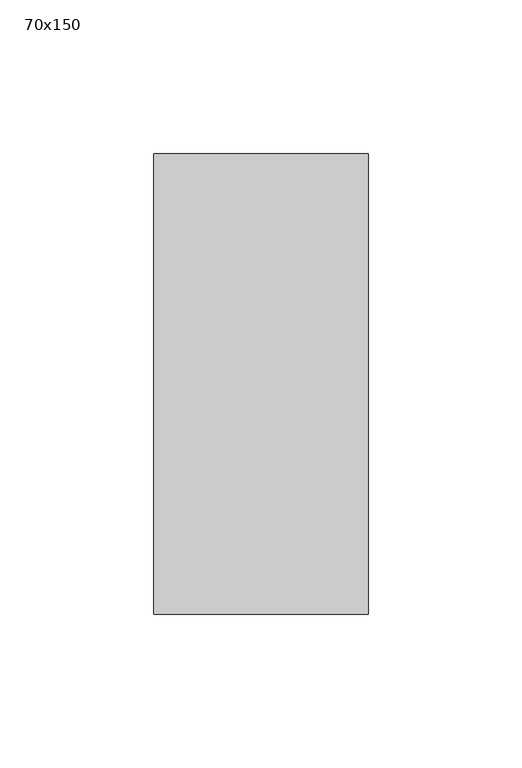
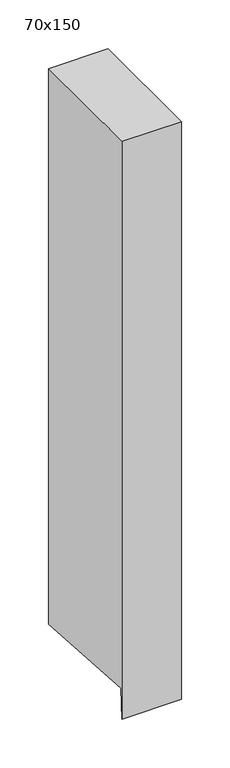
"""IFC4 building model written with IfcOpenShell, lengths in millimetres: member geometry, 長方形のマリオン : 70x150."""

import ifcopenshell
import ifcopenshell.guid

model = None  # the IFC model being written
_history = None  # IfcOwnerHistory: only IFC2X3 demands one
_inside = {}  # id of a spatial element -> (the spatial element, [elements in it])
_under = {}  # id of a project, library or spatial element -> (it, [spatial elements below it])
_declared = {}  # id of a project -> (the project, [libraries it declares])
_typed = {}  # id of a type object -> (the type object, [elements of that type])
_made_of = {}  # id of a material, layer set ... -> (it, [elements and type objects made of it])


def new_model(schema):
    """Start an empty IFC model of exactly this schema.

    Asked for "IFC4X3", IfcOpenShell would pick the latest addendum, in which some entities
    have other attributes; the version numbers below select the first issue.
    IFC2X3 requires an IfcOwnerHistory on every rooted entity: one is made here for all.
    """
    global model, _history
    if schema == "IFC4X3":
        model = ifcopenshell.file(schema_version=(4, 3, 0, 0))
    else:
        model = ifcopenshell.file(schema=schema)
    _inside.clear()
    _under.clear()
    _declared.clear()
    _typed.clear()
    _made_of.clear()
    _history = None
    if model.schema == "IFC2X3":
        org = make("IfcOrganization", Name="unknown")
        user = make(
            "IfcPersonAndOrganization",
            ThePerson=make("IfcPerson", FamilyName="unknown"),
            TheOrganization=org,
        )
        app = make(
            "IfcApplication",
            ApplicationDeveloper=org,
            Version="unknown",
            ApplicationFullName="unknown",
            ApplicationIdentifier="unknown",
        )
        _history = make(
            "IfcOwnerHistory",
            OwningUser=user,
            OwningApplication=app,
            ChangeAction="ADDED",
            CreationDate=0,
        )
    return model


def make(cls, **values):
    """One entity of the class cls with the attributes given. An attribute that is None is left unset."""
    return model.create_entity(
        cls, **{name: value for name, value in values.items() if value is not None}
    )


def rooted(cls, **values):
    """An entity with a GlobalId (a new one), such as an element, a storey or a relation."""
    return make(cls, GlobalId=ifcopenshell.guid.new(), OwnerHistory=_history, **values)


def si_unit(unit_type, name, prefix=None):
    """IfcSIUnit, for example si_unit("LENGTHUNIT", "METRE", prefix="MILLI")."""
    return make("IfcSIUnit", UnitType=unit_type, Prefix=prefix, Name=name)


def assignment(units):
    """IfcUnitAssignment: the units of a project."""
    return None if units is None else make("IfcUnitAssignment", Units=units)


def point(xyz):
    """IfcCartesianPoint."""
    return None if xyz is None else make("IfcCartesianPoint", Coordinates=xyz)


def direction(xyz):
    """IfcDirection."""
    return None if xyz is None else make("IfcDirection", DirectionRatios=xyz)


def frame(location, z_axis=None, x_axis=None):
    """IfcAxis2Placement3D, a coordinate frame: its origin and axes. An axis left out is left unset."""
    return make(
        "IfcAxis2Placement3D",
        Location=point(location),
        Axis=direction(z_axis),
        RefDirection=direction(x_axis),
    )


def origin():
    """The frame at (0, 0, 0) with its axes left unset."""
    return frame((0.0, 0.0, 0.0))


def place(relative_to, where):
    """IfcLocalPlacement: puts the frame where relative to a parent placement (None: the world)."""
    return make(
        "IfcLocalPlacement", PlacementRelTo=relative_to, RelativePlacement=where
    )


def context(
    kind, dimensions, precision=None, world=None, true_north=None, identifier=None
):
    """IfcGeometricRepresentationContext, for example the 3D "Model" context."""
    return make(
        "IfcGeometricRepresentationContext",
        ContextIdentifier=identifier,
        ContextType=kind,
        CoordinateSpaceDimension=dimensions,
        Precision=precision,
        WorldCoordinateSystem=world,
        TrueNorth=true_north,
    )


def project(units=None, contexts=None):
    """IfcProject with its units and contexts."""
    return rooted(
        "IfcProject",
        Name="project",
        RepresentationContexts=contexts,
        UnitsInContext=assignment(units),
    )


def spatial(cls, under=None, at=None, **own):
    """A site, building, storey or space (cls), placed at a placement, below another one or the project."""
    s = rooted(cls, ObjectPlacement=at, **own)
    if under is not None:
        _under.setdefault(under.id(), (under, []))[1].append(s)
    return s


def polyline(points):
    """IfcPolyline through the points."""
    return make("IfcPolyline", Points=[point(p) for p in points])


def outline(outer, holes=None, kind="AREA"):
    """IfcArbitraryClosedProfileDef: a profile drawn as a closed curve; with holes, ...WithVoids."""
    if holes is None:
        return make("IfcArbitraryClosedProfileDef", ProfileType=kind, OuterCurve=outer)
    return make(
        "IfcArbitraryProfileDefWithVoids",
        ProfileType=kind,
        OuterCurve=outer,
        InnerCurves=holes,
    )


def extrude(swept, where, along, depth):
    """IfcExtrudedAreaSolid: the profile swept, set in the frame where, extruded along a direction by depth."""
    return make(
        "IfcExtrudedAreaSolid",
        SweptArea=swept,
        Position=where,
        ExtrudedDirection=direction(along),
        Depth=depth,
    )


def shape(context_of_items, identifier, shape_type, items):
    """IfcShapeRepresentation: the items that make up one representation, for example the "Body"."""
    return make(
        "IfcShapeRepresentation",
        ContextOfItems=context_of_items,
        RepresentationIdentifier=identifier,
        RepresentationType=shape_type,
        Items=items,
    )


def source(mapping_origin, context_of_items, identifier, shape_type, items):
    """IfcRepresentationMap: a shape defined once, which mapped items show again and again."""
    return make(
        "IfcRepresentationMap",
        MappingOrigin=mapping_origin,
        MappedRepresentation=shape(context_of_items, identifier, shape_type, items),
    )


def transform(
    local_origin,
    x_axis=None,
    y_axis=None,
    z_axis=None,
    scale=None,
    scale2=None,
    scale3=None,
    uniform=True,
):
    """IfcCartesianTransformationOperator3D, or its non-uniform kind. x_axis, y_axis, z_axis: its Axis1, 2, 3."""
    if uniform:
        return make(
            "IfcCartesianTransformationOperator3D",
            Axis1=direction(x_axis),
            Axis2=direction(y_axis),
            LocalOrigin=point(local_origin),
            Scale=scale,
            Axis3=direction(z_axis),
        )
    return make(
        "IfcCartesianTransformationOperator3DnonUniform",
        Axis1=direction(x_axis),
        Axis2=direction(y_axis),
        LocalOrigin=point(local_origin),
        Scale=scale,
        Axis3=direction(z_axis),
        Scale2=scale2,
        Scale3=scale3,
    )


def mapped(mapping_source, mapping_target):
    """IfcMappedItem: shows the shape of a source again, moved by a transform."""
    return make(
        "IfcMappedItem", MappingSource=mapping_source, MappingTarget=mapping_target
    )


def made_of(thing, what):
    """Note that an element or type object is made of a material, layer set ...; save() writes the relation."""
    if what is not None:
        _made_of.setdefault(what.id(), (what, []))[1].append(thing)
    return thing


def element(
    cls,
    number,
    at=None,
    inside=None,
    cuts=None,
    type_object=None,
    material=None,
    context=None,
    identifier="Body",
    shape_type=None,
    held_by="IfcProductDefinitionShape",
    body=None,
    shapes=None,
    **own,
):
    """One element of the class cls, such as IfcWall. Its Tag is "e" and its number.

    at: its placement. inside: the storey or other place that contains it. cuts: it is an
    opening in that element (IfcRelVoidsElement). A single representation is given by context,
    identifier, shape_type and body (its items); several are given by shapes. held_by: the class
    of the entity that holds the representations. save() writes the other relations.
    """
    e = rooted(cls, Tag="e%d" % number, ObjectPlacement=at, **own)
    if body is not None:
        shapes = [shape(context, identifier, shape_type, body)]
    if shapes is not None:
        e.Representation = make(held_by, Representations=shapes)
    if inside is not None:
        _inside.setdefault(inside.id(), (inside, []))[1].append(e)
    if cuts is not None:
        rooted(
            "IfcRelVoidsElement", RelatingBuildingElement=cuts, RelatedOpeningElement=e
        )
    if type_object is not None:
        _typed.setdefault(type_object.id(), (type_object, []))[1].append(e)
    return made_of(e, material)


def aggregate(whole, parts):
    """IfcRelAggregates: a whole, such as a stair, and the parts it consists of."""
    return rooted("IfcRelAggregates", RelatingObject=whole, RelatedObjects=parts)


def save(model, path):
    """Write the relations noted so far, then the file.

    IfcRelAggregates (storeys below a building ...), IfcRelContainedInSpatialStructure (elements
    in a storey), IfcRelDefinesByType, IfcRelAssociatesMaterial and IfcRelDeclares: one each for
    every whole, place, type object, material and project.
    """
    for whole, parts in _under.values():
        aggregate(whole, parts)
    for where, things in _inside.values():
        rooted(
            "IfcRelContainedInSpatialStructure",
            RelatedElements=things,
            RelatingStructure=where,
        )
    for kind, things in _typed.values():
        rooted("IfcRelDefinesByType", RelatedObjects=things, RelatingType=kind)
    for what, things in _made_of.values():
        rooted("IfcRelAssociatesMaterial", RelatedObjects=things, RelatingMaterial=what)
    for by, libraries in _declared.values():
        rooted("IfcRelDeclares", RelatingContext=by, RelatedDefinitions=libraries)
    model.write(path)


def member_70x150_27cdc2a3(model_context):
    return source(origin(), model_context, "Body", "SweptSolid", [
        extrude(outline(polyline([(-75.0, 0.0), (75.0, 0.0), (75.0, -693.5137706), (-72.5739814, -683.929387), (-75.0, -721.2836128), (-75.0, 0.0)])), frame((-70.0, 0.0, 0.0), z_axis=(1.0, 0.0, 0.0), x_axis=(0.0, 1.0, 0.0)), (0.0, 0.0, 1.0), 70.0),
    ])


if __name__ == "__main__":
    model = new_model("IFC4")
    model_context = context("Model", 3, world=origin())
    ifc_project = project(units=[si_unit("LENGTHUNIT", "METRE", prefix="MILLI")], contexts=[model_context])
    site = spatial("IfcSite", under=ifc_project)
    building = spatial("IfcBuilding", under=site)
    placement = place(None, origin())
    member_70x150_shape = member_70x150_27cdc2a3(model_context)
    element("IfcMember", 1, ObjectType="長方形のマリオン : 70x150", at=placement, inside=building, context=model_context, shape_type="MappedRepresentation", body=[
        mapped(member_70x150_shape, transform((0.0, 0.0, 0.0), x_axis=(1.0, 0.0, 0.0), y_axis=(0.0, 1.0, 0.0), z_axis=(0.0, 0.0, 1.0))),
    ])
    save(model, "model.ifc")
